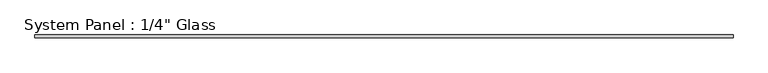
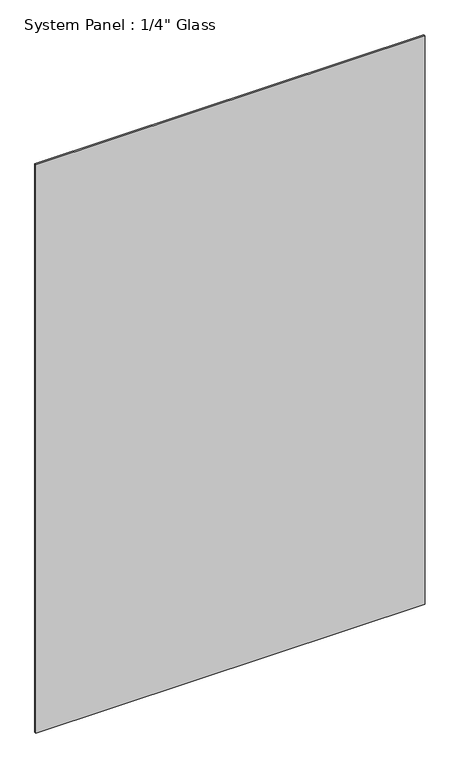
"""IFC4 building model written with IfcOpenShell, lengths in millimetres: plate geometry."""

from ifc_helpers import new_model, si_unit, origin, origin_with_axes, place, context, project, spatial, polyline, outline, extrude, source, transform, mapped, element, save


def plate_db5d6751(model_context):
    return source(origin(), model_context, "Body", "SweptSolid", [
        extrude(outline(polyline([(806.5527185, -3.175), (-806.5527185, -3.175), (-806.5527185, 3.175), (806.5527185, 3.175), (806.5527185, -3.175)])), origin_with_axes(), (0.0, 0.0, 1.0), 2489.2),
    ])


if __name__ == "__main__":
    model = new_model("IFC4")
    model_context = context("Model", 3, world=origin())
    ifc_project = project(units=[si_unit("LENGTHUNIT", "METRE", prefix="MILLI")], contexts=[model_context])
    site = spatial("IfcSite", under=ifc_project)
    building = spatial("IfcBuilding", under=site)
    placement = place(None, origin())
    plate_shape = plate_db5d6751(model_context)
    element("IfcPlate", 1, ObjectType="System Panel : 1/4\" Glass", at=placement, inside=building, context=model_context, shape_type="MappedRepresentation", body=[
        mapped(plate_shape, transform((0.0, 0.0, 0.0), x_axis=(1.0, 0.0, 0.0), y_axis=(0.0, 1.0, 0.0), z_axis=(0.0, 0.0, 1.0))),
    ])
    save(model, "model.ifc")
